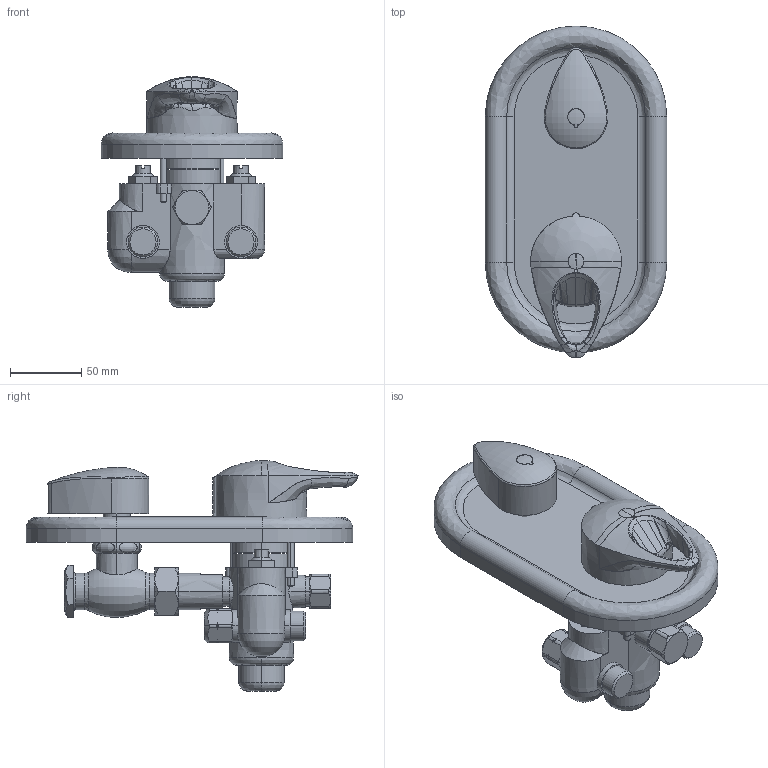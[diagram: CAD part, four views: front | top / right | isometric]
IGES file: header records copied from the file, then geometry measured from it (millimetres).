
Start section:  PTC IGES file: 2500-VOCXKCP_REV050510.igs
Global section: file name: 2500-VOCXKCP_REV050510.igs; native system: Pro/ENGINEER by Parametric Technology Corporation; preprocessor: 2009230; author: sdmitruk; organization: Unknown; date: 20100505.093032; units: inch
Bounding box: 127 x 232.23 x 161.51 mm (x, y, z)
Surface area: 153412.2 mm2 (no closed solid volume)
Topology: 0 solids, 0 shells, 406 faces, 3018 edges, 3969 vertices
Faces by surface type: bspline 209, revolution 193, extrusion 4
